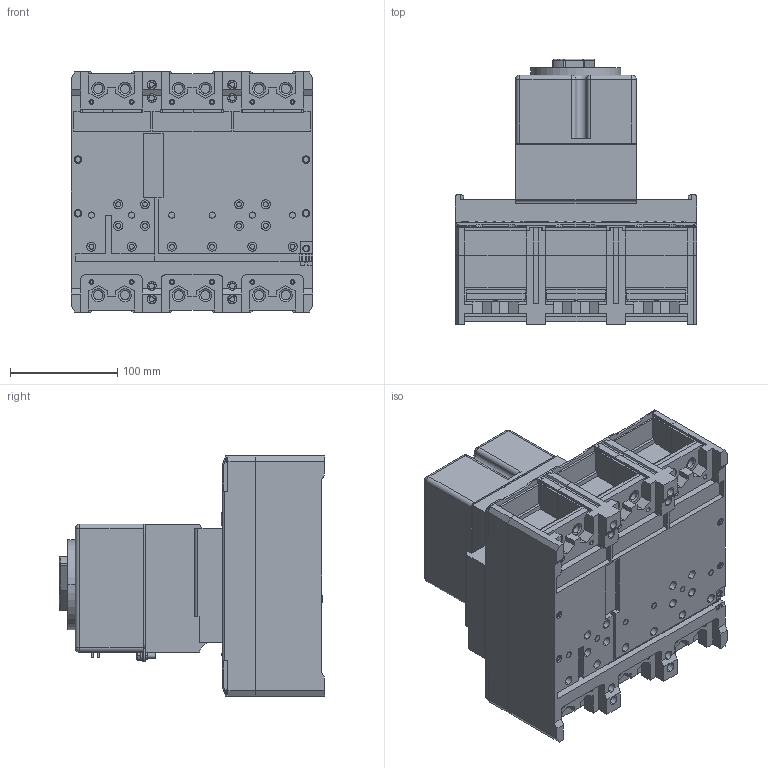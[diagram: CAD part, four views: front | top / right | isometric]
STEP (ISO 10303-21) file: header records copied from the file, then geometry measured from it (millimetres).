
FILE_DESCRIPTION (( 'STEP AP203' ), '1' );
FILE_NAME ('臍51-39 鵚昑.STEP', '2016-04-06T10:45:16', ( 'admin' ), ( '' ), 'SwSTEP 2.0', 'SolidWorks 2012', '' );
FILE_SCHEMA (( 'CONFIG_CONTROL_DESIGN' ));
Length unit declared in the file: millimetre
Products named in the file (1): 臍51-39 鵚昑
Bounding box: 225.3 x 247.55 x 223.77 mm (x, y, z)
Volume: 3924146.1 mm3; surface area: 799968.5 mm2
Topology: 45 solids, 45 shells, 3631 faces, 9513 edges, 6057 vertices
Faces by surface type: plane 2015, cylinder 1170, cone 134, sphere 116, bspline 107, torus 89
Entity records: 116323 total; most frequent: CARTESIAN_POINT 26003, ORIENTED_EDGE 18738, DIRECTION 18716, EDGE_CURVE 9369, LINE 6302, VECTOR 6302, AXIS2_PLACEMENT_3D 6207, VERTEX_POINT 6005
